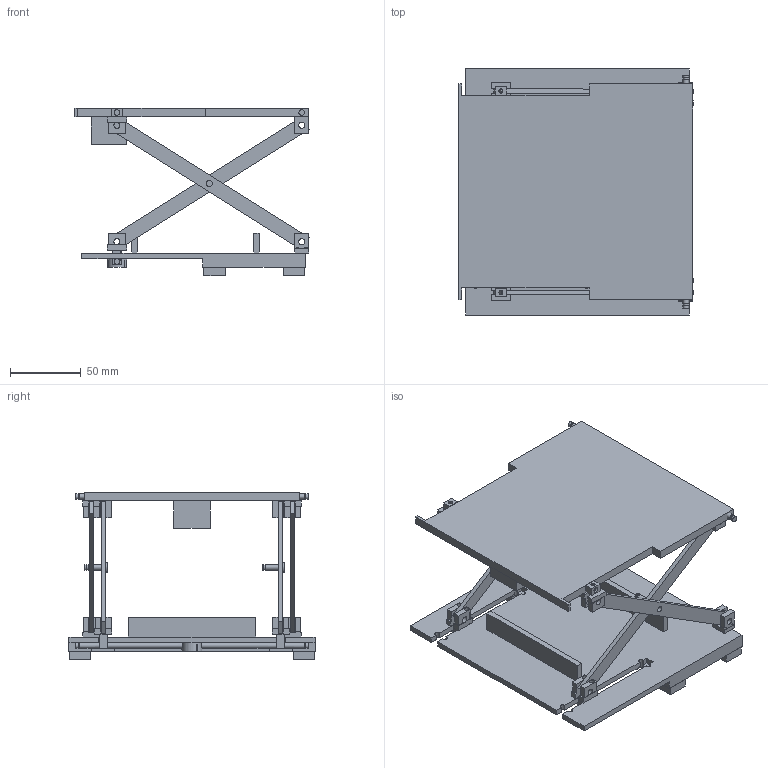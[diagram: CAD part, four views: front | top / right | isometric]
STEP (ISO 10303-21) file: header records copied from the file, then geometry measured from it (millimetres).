
FILE_DESCRIPTION(('Open CASCADE Model'),'2;1');
FILE_NAME('SCZ_asm_mid','2026-11-15T22:39:12',('Author'),('Open CASCADE' ),'Open CASCADE STEP processor 8.0','build123d','Unknown');
FILE_SCHEMA(('AUTOMOTIVE_DESIGN { 1 0 10303 214 1 1 1 1 }'));
Length unit declared in the file: millimetre
Products named in the file (11): SCZ_asm_mid; BASE; ARM_B_R; SLB_R; SLT_R; POST_R; SHB; SHT; PLAT; CPIN_L; CPIN_R
Assembly tree (16 placements, depth 2):
  SCZ_asm_mid
    BASE
    ARM_B_R  x4
    SLB_R  x2
    SLT_R  x2
    POST_R  x2
    SHB
    SHT
    PLAT
    CPIN_L
    CPIN_R
Bounding box: 165.2 x 173.5 x 118.06 mm (x, y, z)
Volume: 380733.6 mm3; surface area: 152353.7 mm2
Topology: 16 solids, 16 shells, 421 faces, 1097 edges, 726 vertices
Faces by surface type: plane 323, cylinder 98
Full cylindrical faces by diameter (mm): 2.9 x8, 3.4 x24, 4 x15, 4.3 x28, 7 x2
Entity records: 21106 total; most frequent: CARTESIAN_POINT 5777, DIRECTION 2662, LINE 1630, VECTOR 1630, ORIENTED_EDGE 1544, PCURVE 1544, DEFINITIONAL_REPRESENTATION 1544, EDGE_CURVE 772
